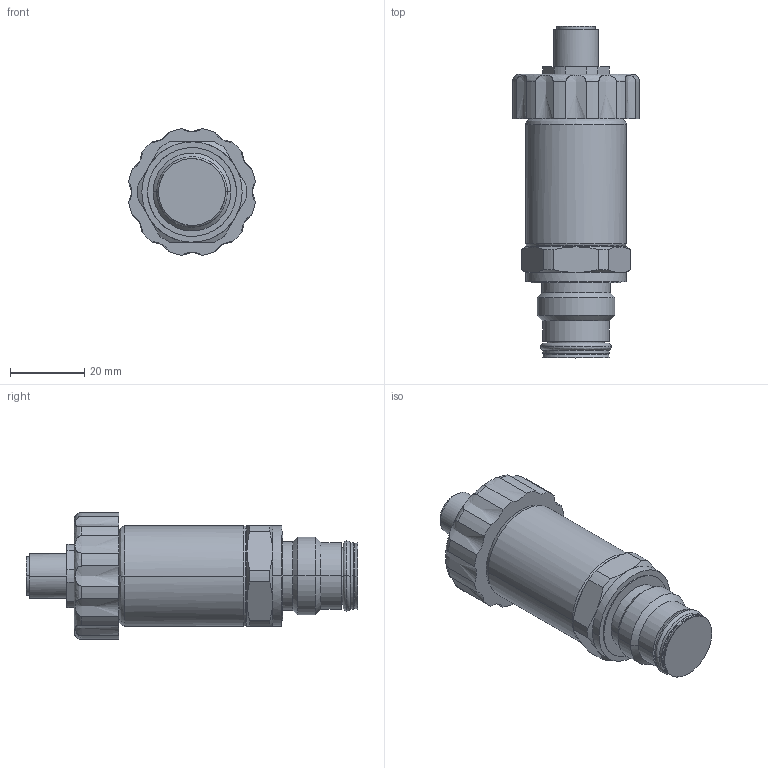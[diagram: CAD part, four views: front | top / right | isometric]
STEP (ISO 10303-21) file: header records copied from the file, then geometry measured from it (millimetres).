
FILE_DESCRIPTION (( 'STEP AP214' ), '1' );
FILE_NAME ('PFT-FxxxxxSF2OSxxMxxx-S111009.STEP', '2013-09-04T20:01:07', ( 'SICK' ), ( 'SICK' ), 'SwSTEP 2.0', 'SolidWorks 2012', '' );
FILE_SCHEMA (( 'AUTOMOTIVE_DESIGN' ));
Length unit declared in the file: millimetre
Products named in the file (1): PFT-FxxxxxSF2OSxxMxxx-S111009
Bounding box: 34.08 x 89.4 x 34.08 mm (x, y, z)
Volume: 43574.9 mm3; surface area: 9317 mm2
Topology: 2 solids, 4 shells, 127 faces, 296 edges, 184 vertices
Faces by surface type: bspline 100, plane 27
Entity records: 7399 total; most frequent: CARTESIAN_POINT 4621, ORIENTED_EDGE 592, EDGE_CURVE 296, B_SPLINE_CURVE_WITH_KNOTS 204, VERTEX_POINT 184, DIRECTION 148, EDGE_LOOP 136, ADVANCED_FACE 127
